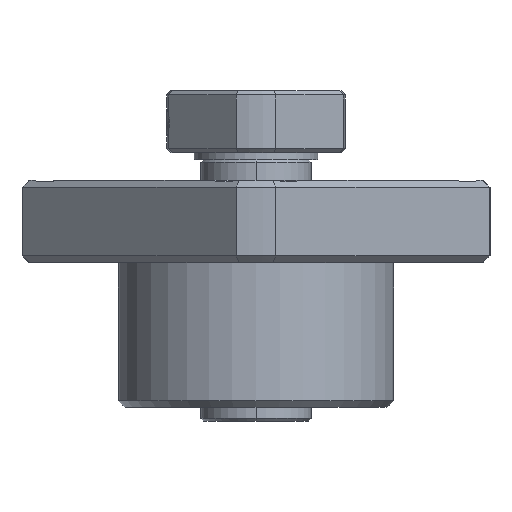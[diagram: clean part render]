
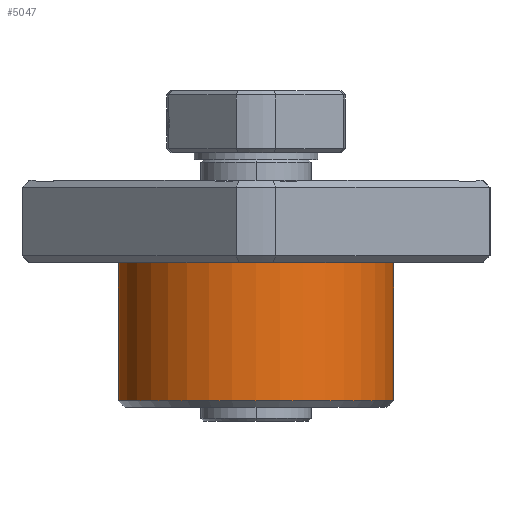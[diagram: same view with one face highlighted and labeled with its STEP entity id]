
A CAD part, left-side view. The second image highlights one B-rep face of the part: STEP entity #5047.
In plain terms, the highlighted cylindrical face has radius 10 mm (diameter 20 mm), a partial arc.
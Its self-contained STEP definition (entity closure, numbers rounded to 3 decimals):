
#188 = FACE_OUTER_BOUND ( 'NONE', #4270, .T. ) ;
#192 = AXIS2_PLACEMENT_3D ( 'NONE', #1712, #1713, #1714 ) ;
#193 = CYLINDRICAL_SURFACE ( 'NONE', #192, 10. ) ;
#609 = CARTESIAN_POINT ( 'NONE',  ( 0., 0., 2.25 ) ) ;
#619 = DIRECTION ( 'NONE',  ( 0., 0., -1. ) ) ;
#620 = DIRECTION ( 'NONE',  ( 0., -1., 0. ) ) ;
#1712 = CARTESIAN_POINT ( 'NONE',  ( 0., 0., -8.25 ) ) ;
#1713 = DIRECTION ( 'NONE',  ( 0., 0., -1. ) ) ;
#1714 = DIRECTION ( 'NONE',  ( 0., -1., 0. ) ) ;
#2579 = CARTESIAN_POINT ( 'NONE',  ( 0., -10., 2.25 ) ) ;
#2580 = CARTESIAN_POINT ( 'NONE',  ( 0., 10., 2.25 ) ) ;
#2581 = CARTESIAN_POINT ( 'NONE',  ( 0., 10., -7.75 ) ) ;
#2582 = CARTESIAN_POINT ( 'NONE',  ( 0., -10., -7.75 ) ) ;
#3389 = EDGE_CURVE ( 'NONE', #4372, #4373, #5261, .T. ) ;
#3551 = EDGE_CURVE ( 'NONE', #4373, #4374, #6509, .T. ) ;
#3559 = EDGE_CURVE ( 'NONE', #4374, #4375, #5329, .T. ) ;
#3623 = EDGE_CURVE ( 'NONE', #4372, #4375, #4792, .T. ) ;
#4005 = AXIS2_PLACEMENT_3D ( 'NONE', #609, #619, #620 ) ;
#4270 = EDGE_LOOP ( 'NONE', ( #4479, #4477, #4478, #4476 ) ) ;
#4372 = VERTEX_POINT ( 'NONE', #2579 ) ;
#4373 = VERTEX_POINT ( 'NONE', #2580 ) ;
#4374 = VERTEX_POINT ( 'NONE', #2581 ) ;
#4375 = VERTEX_POINT ( 'NONE', #2582 ) ;
#4476 = ORIENTED_EDGE ( 'NONE', *, *, #3623, .F. ) ;
#4477 = ORIENTED_EDGE ( 'NONE', *, *, #3551, .T. ) ;
#4478 = ORIENTED_EDGE ( 'NONE', *, *, #3559, .T. ) ;
#4479 = ORIENTED_EDGE ( 'NONE', *, *, #3389, .T. ) ;
#4792 = LINE ( 'NONE', #4793, #6743 ) ;
#4793 = CARTESIAN_POINT ( 'NONE',  ( 0., -10., -8.25 ) ) ;
#4794 = DIRECTION ( 'NONE',  ( 0., 0., -1. ) ) ;
#5047 = ADVANCED_FACE ( 'NONE', ( #188 ), #193, .T. ) ;
#5261 = CIRCLE ( 'NONE', #4005, 10. ) ;
#5329 = CIRCLE ( 'NONE', #6671, 10. ) ;
#6509 = LINE ( 'NONE', #6510, #6680 ) ;
#6510 = CARTESIAN_POINT ( 'NONE',  ( 0., 10., -8.25 ) ) ;
#6511 = DIRECTION ( 'NONE',  ( 0., 0., -1. ) ) ;
#6534 = CARTESIAN_POINT ( 'NONE',  ( 0., 0., -7.75 ) ) ;
#6535 = DIRECTION ( 'NONE',  ( 0., 0., 1. ) ) ;
#6536 = DIRECTION ( 'NONE',  ( 0., 1., 0. ) ) ;
#6671 = AXIS2_PLACEMENT_3D ( 'NONE', #6534, #6535, #6536 ) ;
#6680 = VECTOR ( 'NONE', #6511, 1000. ) ;
#6743 = VECTOR ( 'NONE', #4794, 1000. ) ;
